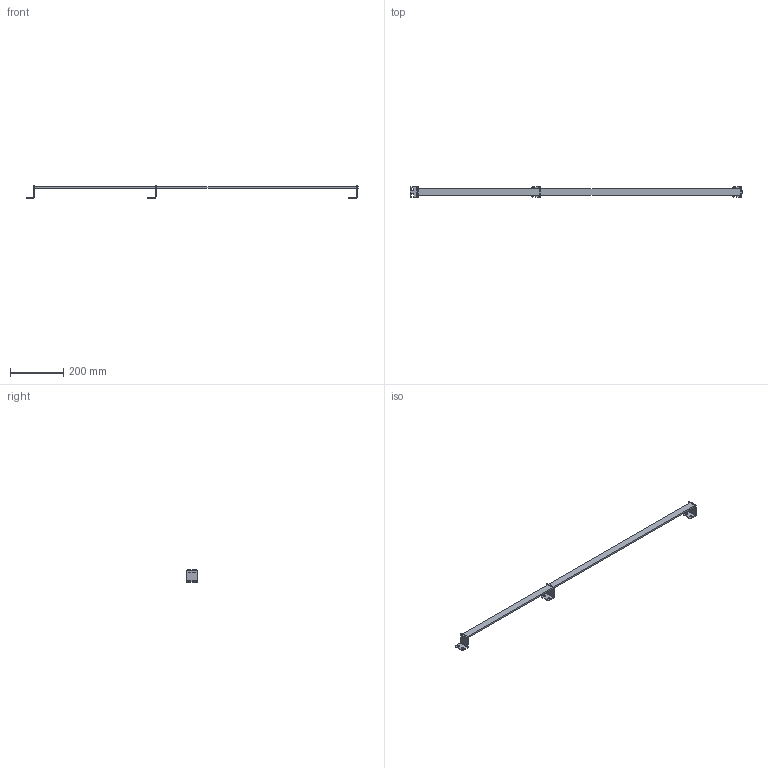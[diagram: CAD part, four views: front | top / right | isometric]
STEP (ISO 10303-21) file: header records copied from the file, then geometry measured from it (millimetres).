
FILE_DESCRIPTION((''),'2;1');
FILE_NAME('517509_ASM','2023-03-02T',('jenni.wallner'),(''),'PRO/ENGINEER BY PARAMETRIC TECHNOLOGY CORPORATION, 2012420','PRO/ENGINEER BY PARAMETRIC TECHNOLOGY CORPORATION, 2012420','');
FILE_SCHEMA(('CONFIG_CONTROL_DESIGN'));
Length unit declared in the file: inch
Products named in the file (5): 517545; 517547; 517546_ASM; ASM0001_ASM; 517509_ASM
Assembly tree (6 placements, depth 4):
  517509_ASM
    ASM0001_ASM
      517545  x2
      517546_ASM
        517547
        517545
Bounding box: 1247.9 x 38.1 x 47.62 mm (x, y, z)
Volume: 219197.3 mm3; surface area: 95582.2 mm2
Topology: 4 solids, 4 shells, 110 faces, 282 edges, 180 vertices
Faces by surface type: plane 63, cylinder 47
Entity records: 1447 total; most frequent: DIRECTION 256, CARTESIAN_POINT 232, ORIENTED_EDGE 212, EDGE_CURVE 106, AXIS2_PLACEMENT_3D 92, VECTOR 72, LINE 72, VERTEX_POINT 68
